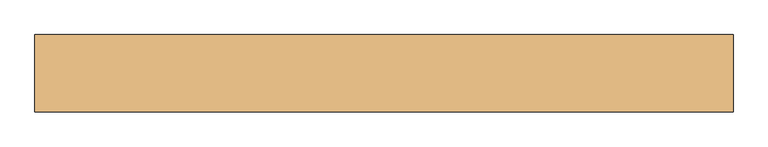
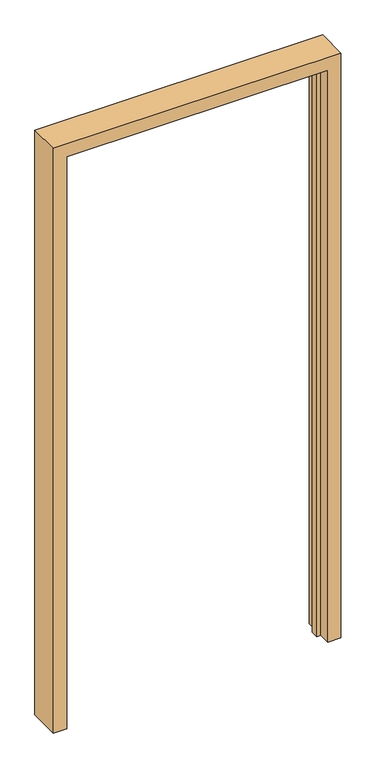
"""IFC4 building model written with IfcOpenShell, lengths in millimetres: door geometry, Door_Steel_Republic_Single-DoubleRabbet-Equal : ByType."""

import ifcopenshell
import ifcopenshell.guid

model = None  # the IFC model being written
_history = None  # IfcOwnerHistory: only IFC2X3 demands one
_inside = {}  # id of a spatial element -> (the spatial element, [elements in it])
_under = {}  # id of a project, library or spatial element -> (it, [spatial elements below it])
_declared = {}  # id of a project -> (the project, [libraries it declares])
_typed = {}  # id of a type object -> (the type object, [elements of that type])
_made_of = {}  # id of a material, layer set ... -> (it, [elements and type objects made of it])


def new_model(schema):
    """Start an empty IFC model of exactly this schema.

    Asked for "IFC4X3", IfcOpenShell would pick the latest addendum, in which some entities
    have other attributes; the version numbers below select the first issue.
    IFC2X3 requires an IfcOwnerHistory on every rooted entity: one is made here for all.
    """
    global model, _history
    if schema == "IFC4X3":
        model = ifcopenshell.file(schema_version=(4, 3, 0, 0))
    else:
        model = ifcopenshell.file(schema=schema)
    _inside.clear()
    _under.clear()
    _declared.clear()
    _typed.clear()
    _made_of.clear()
    _history = None
    if model.schema == "IFC2X3":
        org = make("IfcOrganization", Name="unknown")
        user = make(
            "IfcPersonAndOrganization",
            ThePerson=make("IfcPerson", FamilyName="unknown"),
            TheOrganization=org,
        )
        app = make(
            "IfcApplication",
            ApplicationDeveloper=org,
            Version="unknown",
            ApplicationFullName="unknown",
            ApplicationIdentifier="unknown",
        )
        _history = make(
            "IfcOwnerHistory",
            OwningUser=user,
            OwningApplication=app,
            ChangeAction="ADDED",
            CreationDate=0,
        )
    return model


def make(cls, **values):
    """One entity of the class cls with the attributes given. An attribute that is None is left unset."""
    return model.create_entity(
        cls, **{name: value for name, value in values.items() if value is not None}
    )


def rooted(cls, **values):
    """An entity with a GlobalId (a new one), such as an element, a storey or a relation."""
    return make(cls, GlobalId=ifcopenshell.guid.new(), OwnerHistory=_history, **values)


def si_unit(unit_type, name, prefix=None):
    """IfcSIUnit, for example si_unit("LENGTHUNIT", "METRE", prefix="MILLI")."""
    return make("IfcSIUnit", UnitType=unit_type, Prefix=prefix, Name=name)


def assignment(units):
    """IfcUnitAssignment: the units of a project."""
    return None if units is None else make("IfcUnitAssignment", Units=units)


def point(xyz):
    """IfcCartesianPoint."""
    return None if xyz is None else make("IfcCartesianPoint", Coordinates=xyz)


def direction(xyz):
    """IfcDirection."""
    return None if xyz is None else make("IfcDirection", DirectionRatios=xyz)


def frame(location, z_axis=None, x_axis=None):
    """IfcAxis2Placement3D, a coordinate frame: its origin and axes. An axis left out is left unset."""
    return make(
        "IfcAxis2Placement3D",
        Location=point(location),
        Axis=direction(z_axis),
        RefDirection=direction(x_axis),
    )


def origin():
    """The frame at (0, 0, 0) with its axes left unset."""
    return frame((0.0, 0.0, 0.0))


def place(relative_to, where):
    """IfcLocalPlacement: puts the frame where relative to a parent placement (None: the world)."""
    return make(
        "IfcLocalPlacement", PlacementRelTo=relative_to, RelativePlacement=where
    )


def context(
    kind, dimensions, precision=None, world=None, true_north=None, identifier=None
):
    """IfcGeometricRepresentationContext, for example the 3D "Model" context."""
    return make(
        "IfcGeometricRepresentationContext",
        ContextIdentifier=identifier,
        ContextType=kind,
        CoordinateSpaceDimension=dimensions,
        Precision=precision,
        WorldCoordinateSystem=world,
        TrueNorth=true_north,
    )


def project(units=None, contexts=None):
    """IfcProject with its units and contexts."""
    return rooted(
        "IfcProject",
        Name="project",
        RepresentationContexts=contexts,
        UnitsInContext=assignment(units),
    )


def spatial(cls, under=None, at=None, **own):
    """A site, building, storey or space (cls), placed at a placement, below another one or the project."""
    s = rooted(cls, ObjectPlacement=at, **own)
    if under is not None:
        _under.setdefault(under.id(), (under, []))[1].append(s)
    return s


def faces_of(points, faces, orient=None, outer=None):
    """IfcFace entities. A face is a list of loops; a loop is a list of indices into points, from 0.

    orient and outer hold one flag for each loop. By default every Orientation is true, the
    first loop of a face is its IfcFaceOuterBound and the others are IfcFaceBound.
    """
    made = []
    for i, loops in enumerate(faces):
        bounds = []
        for j, loop in enumerate(loops):
            is_outer = j == 0 if outer is None else outer[i][j]
            bounds.append(
                make(
                    "IfcFaceOuterBound" if is_outer else "IfcFaceBound",
                    Bound=make("IfcPolyLoop", Polygon=[points[k] for k in loop]),
                    Orientation=True if orient is None else orient[i][j],
                )
            )
        made.append(make("IfcFace", Bounds=bounds))
    return made


def faceted_brep(points, faces, orient=None, outer=None, voids=None):
    """IfcFacetedBrep: a solid bounded by flat faces; with voids (closed shells), ...WithVoids."""
    shared = [point(p) for p in points]
    hull = make("IfcClosedShell", CfsFaces=faces_of(shared, faces, orient, outer))
    if voids is None:
        return make("IfcFacetedBrep", Outer=hull)
    return make(
        "IfcFacetedBrepWithVoids",
        Outer=hull,
        Voids=[
            make(cls, CfsFaces=faces_of(shared, fs, o, b)) for cls, fs, o, b in voids
        ],
    )


def shape(context_of_items, identifier, shape_type, items):
    """IfcShapeRepresentation: the items that make up one representation, for example the "Body"."""
    return make(
        "IfcShapeRepresentation",
        ContextOfItems=context_of_items,
        RepresentationIdentifier=identifier,
        RepresentationType=shape_type,
        Items=items,
    )


def source(mapping_origin, context_of_items, identifier, shape_type, items):
    """IfcRepresentationMap: a shape defined once, which mapped items show again and again."""
    return make(
        "IfcRepresentationMap",
        MappingOrigin=mapping_origin,
        MappedRepresentation=shape(context_of_items, identifier, shape_type, items),
    )


def transform(
    local_origin,
    x_axis=None,
    y_axis=None,
    z_axis=None,
    scale=None,
    scale2=None,
    scale3=None,
    uniform=True,
):
    """IfcCartesianTransformationOperator3D, or its non-uniform kind. x_axis, y_axis, z_axis: its Axis1, 2, 3."""
    if uniform:
        return make(
            "IfcCartesianTransformationOperator3D",
            Axis1=direction(x_axis),
            Axis2=direction(y_axis),
            LocalOrigin=point(local_origin),
            Scale=scale,
            Axis3=direction(z_axis),
        )
    return make(
        "IfcCartesianTransformationOperator3DnonUniform",
        Axis1=direction(x_axis),
        Axis2=direction(y_axis),
        LocalOrigin=point(local_origin),
        Scale=scale,
        Axis3=direction(z_axis),
        Scale2=scale2,
        Scale3=scale3,
    )


def mapped(mapping_source, mapping_target):
    """IfcMappedItem: shows the shape of a source again, moved by a transform."""
    return make(
        "IfcMappedItem", MappingSource=mapping_source, MappingTarget=mapping_target
    )


def made_of(thing, what):
    """Note that an element or type object is made of a material, layer set ...; save() writes the relation."""
    if what is not None:
        _made_of.setdefault(what.id(), (what, []))[1].append(thing)
    return thing


def element(
    cls,
    number,
    at=None,
    inside=None,
    cuts=None,
    type_object=None,
    material=None,
    context=None,
    identifier="Body",
    shape_type=None,
    held_by="IfcProductDefinitionShape",
    body=None,
    shapes=None,
    **own,
):
    """One element of the class cls, such as IfcWall. Its Tag is "e" and its number.

    at: its placement. inside: the storey or other place that contains it. cuts: it is an
    opening in that element (IfcRelVoidsElement). A single representation is given by context,
    identifier, shape_type and body (its items); several are given by shapes. held_by: the class
    of the entity that holds the representations. save() writes the other relations.
    """
    e = rooted(cls, Tag="e%d" % number, ObjectPlacement=at, **own)
    if body is not None:
        shapes = [shape(context, identifier, shape_type, body)]
    if shapes is not None:
        e.Representation = make(held_by, Representations=shapes)
    if inside is not None:
        _inside.setdefault(inside.id(), (inside, []))[1].append(e)
    if cuts is not None:
        rooted(
            "IfcRelVoidsElement", RelatingBuildingElement=cuts, RelatedOpeningElement=e
        )
    if type_object is not None:
        _typed.setdefault(type_object.id(), (type_object, []))[1].append(e)
    return made_of(e, material)


def aggregate(whole, parts):
    """IfcRelAggregates: a whole, such as a stair, and the parts it consists of."""
    return rooted("IfcRelAggregates", RelatingObject=whole, RelatedObjects=parts)


def save(model, path):
    """Write the relations noted so far, then the file.

    IfcRelAggregates (storeys below a building ...), IfcRelContainedInSpatialStructure (elements
    in a storey), IfcRelDefinesByType, IfcRelAssociatesMaterial and IfcRelDeclares: one each for
    every whole, place, type object, material and project.
    """
    for whole, parts in _under.values():
        aggregate(whole, parts)
    for where, things in _inside.values():
        rooted(
            "IfcRelContainedInSpatialStructure",
            RelatedElements=things,
            RelatingStructure=where,
        )
    for kind, things in _typed.values():
        rooted("IfcRelDefinesByType", RelatedObjects=things, RelatingType=kind)
    for what, things in _made_of.values():
        rooted("IfcRelAssociatesMaterial", RelatedObjects=things, RelatingMaterial=what)
    for by, libraries in _declared.values():
        rooted("IfcRelDeclares", RelatingContext=by, RelatedDefinitions=libraries)
    model.write(path)


def door_5e853514(model_context):
    return source(origin(), model_context, "Body", "Brep", [
        faceted_brep([(2115.5906968, -797.6410438, 0.0), (2169.5906968, -797.6410438, 0.0), (2169.5906968, -927.6410438, 0.0), (2115.5906968, -927.6410438, 0.0), (2115.5906968, -878.4285438, 0.0), (2099.7156968, -878.4285438, 0.0), (2099.7156968, -846.8535438, 0.0), (2115.5906968, -846.8535438, 0.0), (2115.5906968, -797.6410438, 2471.0), (1048.5906968, -797.6410438, 2471.0), (1048.5906968, -797.6410438, 0.0), (994.5906968, -797.6410438, 0.0), (994.5906968, -797.6410438, 2525.0), (2169.5906968, -797.6410438, 2525.0), (2169.5906968, -927.6410438, 2525.0), (994.5906968, -927.6410438, 2525.0), (994.5906968, -927.6410438, 0.0), (1048.5906968, -927.6410438, 0.0), (1048.5906968, -927.6410438, 2471.0), (2115.5906968, -927.6410438, 2471.0), (2115.5906968, -878.4285438, 2471.0), (1048.5906968, -878.4285438, 2471.0), (1048.5906968, -878.4285438, 0.0), (1064.4656968, -878.4285438, 0.0), (1064.4656968, -878.4285438, 2455.125), (2099.7156968, -878.4285438, 2455.125), (2099.7156968, -846.8535438, 2455.125), (1064.4656968, -846.8535438, 2455.125), (1064.4656968, -846.8535438, 0.0), (1048.5906968, -846.8535438, 0.0), (1048.5906968, -846.8535438, 2471.0), (2115.5906968, -846.8535438, 2471.0)], [[[0, 1, 2, 3, 4, 5, 6, 7]], [[1, 0, 8, 9, 10, 11, 12, 13]], [[2, 1, 13, 14]], [[3, 2, 14, 15, 16, 17, 18, 19]], [[4, 3, 19, 20]], [[5, 4, 20, 21, 22, 23, 24, 25]], [[6, 5, 25, 26]], [[7, 6, 26, 27, 28, 29, 30, 31]], [[0, 7, 31, 8]], [[9, 30, 29, 10]], [[10, 29, 28, 23, 22, 17, 16, 11]], [[15, 12, 11, 16]], [[21, 18, 17, 22]], [[27, 24, 23, 28]], [[14, 13, 12, 15]], [[20, 19, 18, 21]], [[26, 25, 24, 27]], [[8, 31, 30, 9]]]),
    ])


if __name__ == "__main__":
    model = new_model("IFC4")
    model_context = context("Model", 3, world=origin())
    ifc_project = project(units=[si_unit("LENGTHUNIT", "METRE", prefix="MILLI")], contexts=[model_context])
    site = spatial("IfcSite", under=ifc_project)
    building = spatial("IfcBuilding", under=site)
    placement = place(None, origin())
    door_shape = door_5e853514(model_context)
    element("IfcDoor", 1, ObjectType="Door_Steel_Republic_Single-DoubleRabbet-Equal : ByType", at=placement, inside=building, context=model_context, shape_type="MappedRepresentation", body=[
        mapped(door_shape, transform((0.0, 0.0, 0.0), x_axis=(1.0, 0.0, 0.0), y_axis=(0.0, 1.0, 0.0), z_axis=(0.0, 0.0, 1.0))),
    ])
    save(model, "model.ifc")
